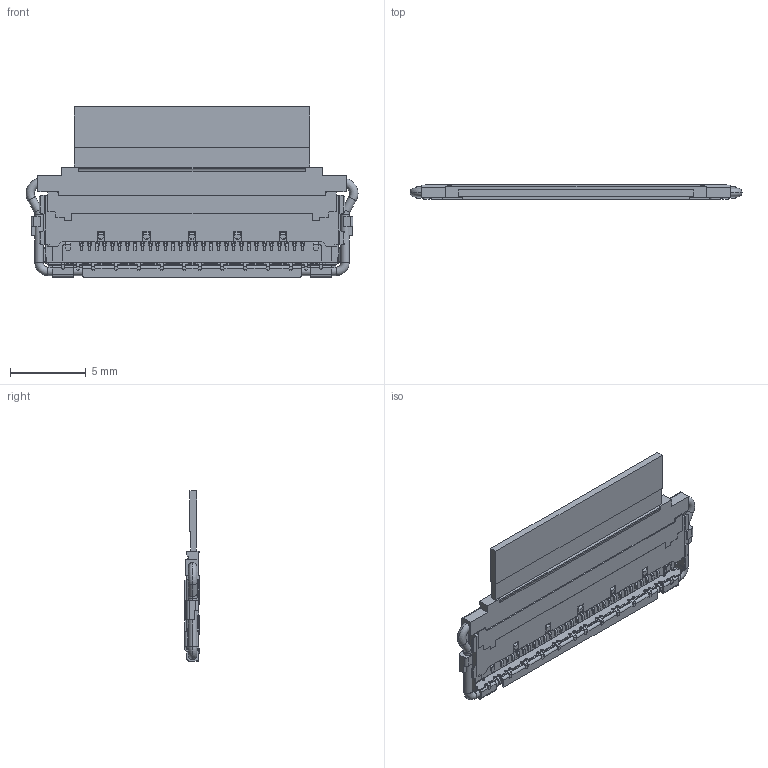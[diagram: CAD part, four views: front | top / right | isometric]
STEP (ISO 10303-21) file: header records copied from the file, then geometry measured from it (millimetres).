
FILE_DESCRIPTION (( 'STEP AP203' ), '1' );
FILE_NAME ('20849-030E-0x + 20862-030T-01 MATING STEP R1R0 ALL.STEP', '2017-11-16T00:22:28', ( '' ), ( '' ), 'SwSTEP 2.0', 'SolidWorks 2014', '' );
FILE_SCHEMA (( 'CONFIG_CONTROL_DESIGN' ));
Length unit declared in the file: millimetre
Products named in the file (1): 20849-030E-0x + 20862-030T-01 MATING STEP R1R0 ALL
Bounding box: 21.85 x 0.95 x 11.2 mm (x, y, z)
Volume: 124.4 mm3; surface area: 721.6 mm2
Topology: 1 solids, 1 shells, 1406 faces, 4097 edges, 2691 vertices
Faces by surface type: plane 886, cylinder 503, torus 12, bspline 5
Entity records: 46728 total; most frequent: CARTESIAN_POINT 8470, ORIENTED_EDGE 8194, DIRECTION 7949, EDGE_CURVE 4097, VECTOR 2985, LINE 2985, VERTEX_POINT 2691, AXIS2_PLACEMENT_3D 2482
